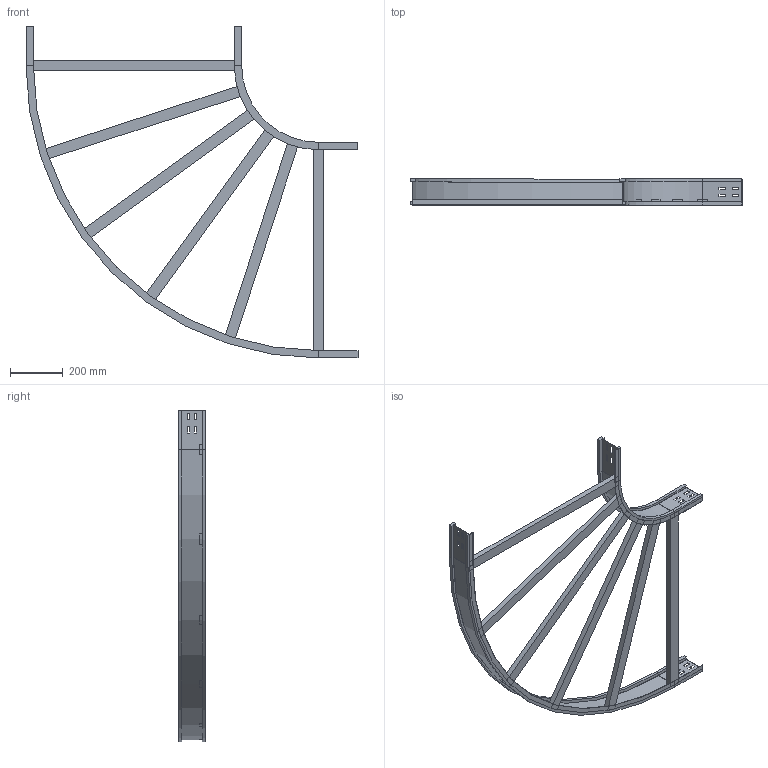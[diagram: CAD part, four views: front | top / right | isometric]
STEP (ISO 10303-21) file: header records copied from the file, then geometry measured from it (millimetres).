
FILE_DESCRIPTION (( 'STEP AP214' ), '1' );
FILE_NAME ('10S3D800.step', '2025-02-21T16:09:12', ( '' ), ( '' ), 'SwSTEP 2.0', 'SolidWorks 2023', '' );
FILE_SCHEMA (( 'AUTOMOTIVE_DESIGN' ));
Length unit declared in the file: millimetre
Products named in the file (4): TRAVERSINO_800; LONGH.ESTERNO 90°_H100_R300+800; LONGH.INTERNO 90°_H100_R300; 10S3D800
Assembly tree (8 placements, depth 2):
  10S3D800
    LONGH.INTERNO 90°_H100_R300
    LONGH.ESTERNO 90°_H100_R300+800
    TRAVERSINO_800  x6
Bounding box: 1259 x 100 x 1259 mm (x, y, z)
Volume: 5352250.7 mm3; surface area: 1416232.1 mm2
Topology: 8 solids, 8 shells, 176 faces, 432 edges, 272 vertices
Faces by surface type: plane 164, cylinder 12
Entity records: 4501 total; most frequent: CARTESIAN_POINT 761, ORIENTED_EDGE 744, DIRECTION 710, EDGE_CURVE 372, LINE 348, VECTOR 348, VERTEX_POINT 232, AXIS2_PLACEMENT_3D 181
